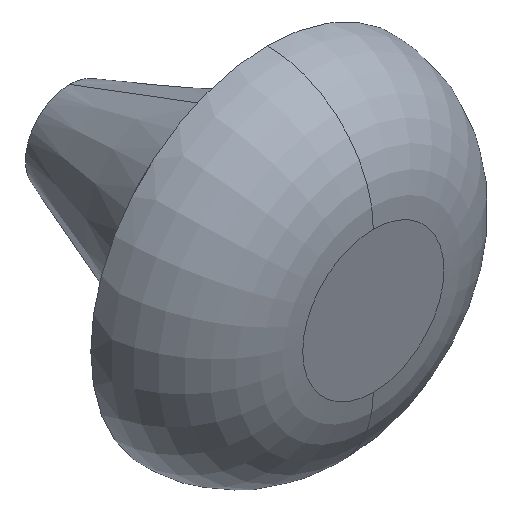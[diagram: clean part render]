
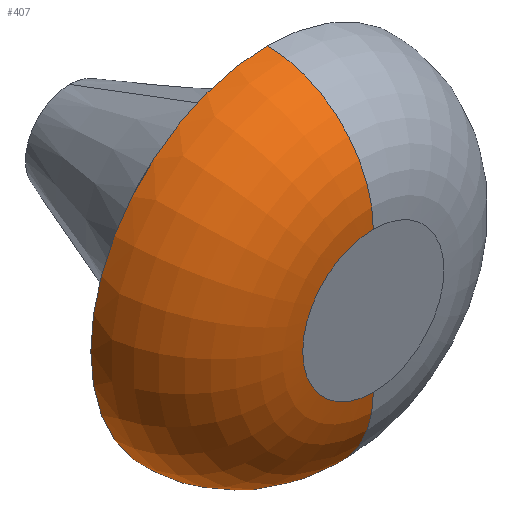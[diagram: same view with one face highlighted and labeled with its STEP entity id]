
A CAD part, isometric view. The second image highlights one B-rep face of the part: STEP entity #407.
In plain terms, the highlighted toroidal (fillet/blend) face has major radius 2 mm and minor radius 3 mm.
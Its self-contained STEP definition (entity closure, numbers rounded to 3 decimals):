
#11 = VERTEX_POINT ( 'NONE', #106 ) ;
#13 = ORIENTED_EDGE ( 'NONE', *, *, #388, .F. ) ;
#18 = EDGE_CURVE ( 'NONE', #412, #11, #155, .T. ) ;
#85 = FACE_OUTER_BOUND ( 'NONE', #390, .T. ) ;
#86 = TOROIDAL_SURFACE ( 'NONE', #87, 2., 3. ) ;
#87 = AXIS2_PLACEMENT_3D ( 'NONE', #88, #89, #90 ) ;
#88 = CARTESIAN_POINT ( 'NONE',  ( 0., 3., 0. ) ) ;
#89 = DIRECTION ( 'NONE',  ( 0., 1., 0. ) ) ;
#90 = DIRECTION ( 'NONE',  ( 0., 0., 1. ) ) ;
#92 = VERTEX_POINT ( 'NONE', #195 ) ;
#106 = CARTESIAN_POINT ( 'NONE',  ( 0., 3., 5. ) ) ;
#115 = CARTESIAN_POINT ( 'NONE',  ( 0., 3., -5. ) ) ;
#136 = CARTESIAN_POINT ( 'NONE',  ( 0., 0., 2. ) ) ;
#155 = CIRCLE ( 'NONE', #156, 3. ) ;
#156 = AXIS2_PLACEMENT_3D ( 'NONE', #157, #158, #159 ) ;
#157 = CARTESIAN_POINT ( 'NONE',  ( 0., 3., 2. ) ) ;
#158 = DIRECTION ( 'NONE',  ( -1., 0., 0. ) ) ;
#159 = DIRECTION ( 'NONE',  ( 0., 0., 1. ) ) ;
#160 = CIRCLE ( 'NONE', #161, 3. ) ;
#161 = AXIS2_PLACEMENT_3D ( 'NONE', #162, #163, #164 ) ;
#162 = CARTESIAN_POINT ( 'NONE',  ( 0., 3., -2. ) ) ;
#163 = DIRECTION ( 'NONE',  ( 1., 0., 0. ) ) ;
#164 = DIRECTION ( 'NONE',  ( 0., 0., -1. ) ) ;
#165 = CIRCLE ( 'NONE', #166, 2. ) ;
#166 = AXIS2_PLACEMENT_3D ( 'NONE', #168, #169, #170 ) ;
#168 = CARTESIAN_POINT ( 'NONE',  ( 0., 0., 0. ) ) ;
#169 = DIRECTION ( 'NONE',  ( 0., -1., 0. ) ) ;
#170 = DIRECTION ( 'NONE',  ( 0., 0., 1. ) ) ;
#195 = CARTESIAN_POINT ( 'NONE',  ( 0., 0., -2. ) ) ;
#213 = CIRCLE ( 'NONE', #214, 5. ) ;
#214 = AXIS2_PLACEMENT_3D ( 'NONE', #215, #216, #217 ) ;
#215 = CARTESIAN_POINT ( 'NONE',  ( 0., 3., 0. ) ) ;
#216 = DIRECTION ( 'NONE',  ( 0., 1., 0. ) ) ;
#217 = DIRECTION ( 'NONE',  ( 0., 0., 1. ) ) ;
#286 = ORIENTED_EDGE ( 'NONE', *, *, #370, .F. ) ;
#324 = ORIENTED_EDGE ( 'NONE', *, *, #18, .T. ) ;
#360 = VERTEX_POINT ( 'NONE', #115 ) ;
#369 = EDGE_CURVE ( 'NONE', #92, #360, #160, .T. ) ;
#370 = EDGE_CURVE ( 'NONE', #412, #92, #165, .T. ) ;
#388 = EDGE_CURVE ( 'NONE', #360, #11, #213, .T. ) ;
#390 = EDGE_LOOP ( 'NONE', ( #400, #286, #324, #13 ) ) ;
#400 = ORIENTED_EDGE ( 'NONE', *, *, #369, .F. ) ;
#407 = ADVANCED_FACE ( 'NONE', ( #85 ), #86, .T. ) ;
#412 = VERTEX_POINT ( 'NONE', #136 ) ;
